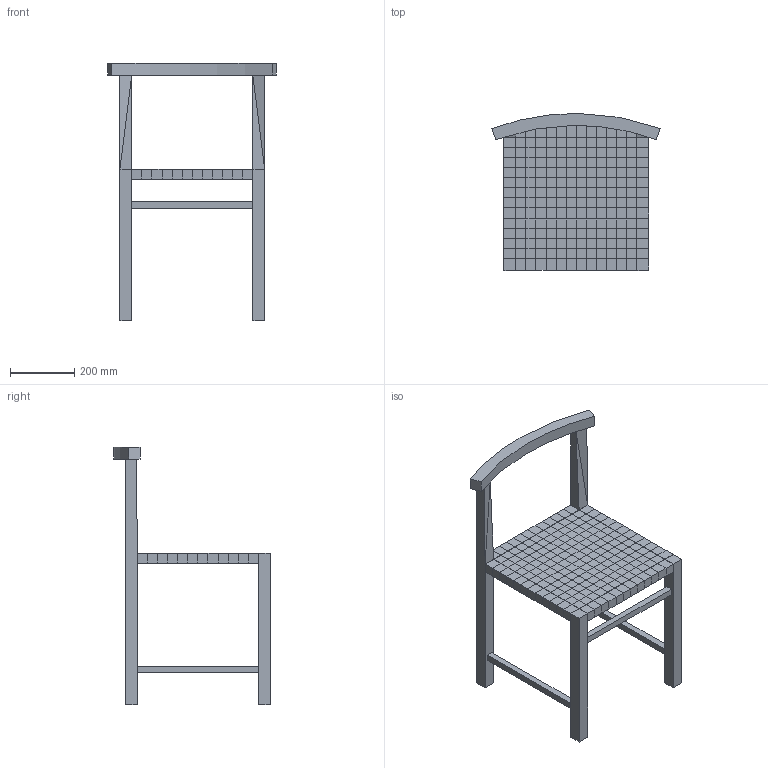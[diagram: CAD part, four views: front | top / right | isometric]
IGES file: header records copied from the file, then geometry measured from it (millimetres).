
Global section: file name: N:\e15\ ENTWICKLUNG\E15_PRODUKTE_DWG_DXF\neue_Produkte_2012\FK02_KARNAK\3D\120327_FK02_KARNAK_Isometrie.igs; native system: VectorWorks; preprocessor: HarmonyWare IGES v1.5.9; date: 20120327.150341; units: millimetre
Bounding box: 523.98 x 486.66 x 800 mm (x, y, z)
Volume: 17790317.3 mm3; surface area: 2371518.2 mm2
Topology: 34 solids, 36 shells, 218 faces, 472 edges, 350 vertices
Faces by surface type: bspline 218
